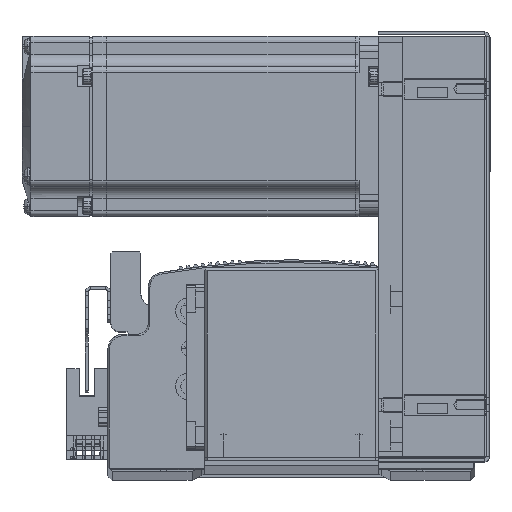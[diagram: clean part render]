
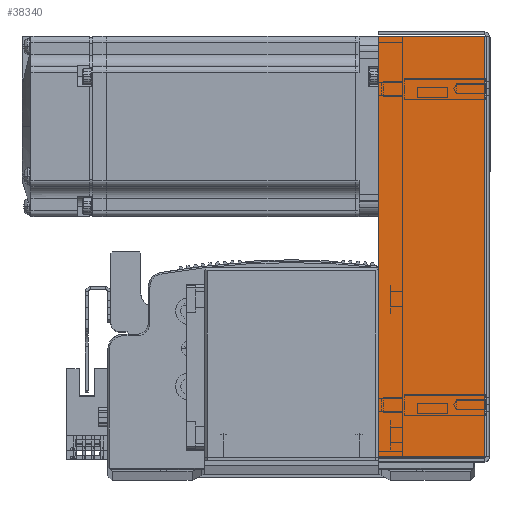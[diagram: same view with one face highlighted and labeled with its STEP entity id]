
A CAD part, top view. The second image highlights one B-rep face of the part: STEP entity #38340.
In plain terms, the highlighted planar face has unit normal (0, 0, 1) as drawn and (0, 0, -1) by its records, which use the part's own axes.
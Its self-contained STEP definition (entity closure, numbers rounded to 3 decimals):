
#11249 = VERTEX_POINT ( 'NONE', #91335 ) ;
#11259 = VERTEX_POINT ( 'NONE', #91359 ) ;
#11279 = VERTEX_POINT ( 'NONE', #91340 ) ;
#11285 = VERTEX_POINT ( 'NONE', #91481 ) ;
#16118 = EDGE_CURVE ( 'NONE', #11285, #11249, #35618, .T. ) ;
#16152 = EDGE_CURVE ( 'NONE', #11259, #11279, #35671, .T. ) ;
#16213 = EDGE_CURVE ( 'NONE', #11249, #11279, #35960, .T. ) ;
#16214 = EDGE_CURVE ( 'NONE', #11285, #11259, #35912, .T. ) ;
#32411 = FACE_OUTER_BOUND ( 'NONE', #68330, .T. ) ;
#35618 = LINE ( 'NONE', #72143, #35628 ) ;
#35628 = VECTOR ( 'NONE', #72133, 1000. ) ;
#35671 = LINE ( 'NONE', #72223, #35694 ) ;
#35694 = VECTOR ( 'NONE', #72258, 1000. ) ;
#35912 = LINE ( 'NONE', #72489, #35947 ) ;
#35931 = VECTOR ( 'NONE', #72461, 1000. ) ;
#35947 = VECTOR ( 'NONE', #72451, 1000. ) ;
#35960 = LINE ( 'NONE', #72477, #35931 ) ;
#38340 = ADVANCED_FACE ( 'NONE', ( #32411 ), #52308, .F. ) ;
#52293 = CARTESIAN_POINT ( 'NONE',  ( 0., 0., -33.5 ) ) ;
#52308 = PLANE ( 'NONE',  #54948 ) ;
#52316 = DIRECTION ( 'NONE',  ( 0., 0., 1. ) ) ;
#52318 = DIRECTION ( 'NONE',  ( 0., -1., 0. ) ) ;
#54948 = AXIS2_PLACEMENT_3D ( 'NONE', #52293, #52316, #52318 ) ;
#60375 = ORIENTED_EDGE ( 'NONE', *, *, #16152, .F. ) ;
#60385 = ORIENTED_EDGE ( 'NONE', *, *, #16214, .F. ) ;
#60403 = ORIENTED_EDGE ( 'NONE', *, *, #16213, .T. ) ;
#60413 = ORIENTED_EDGE ( 'NONE', *, *, #16118, .T. ) ;
#68330 = EDGE_LOOP ( 'NONE', ( #60385, #60413, #60403, #60375 ) ) ;
#72133 = DIRECTION ( 'NONE',  ( 0., 1., 0. ) ) ;
#72143 = CARTESIAN_POINT ( 'NONE',  ( -69.793, 0., -33.5 ) ) ;
#72223 = CARTESIAN_POINT ( 'NONE',  ( 69.793, 0., -33.5 ) ) ;
#72258 = DIRECTION ( 'NONE',  ( 0., 1., 0. ) ) ;
#72451 = DIRECTION ( 'NONE',  ( 1., 0., 0. ) ) ;
#72461 = DIRECTION ( 'NONE',  ( 1., 0., 0. ) ) ;
#72477 = CARTESIAN_POINT ( 'NONE',  ( 0., 36., -33.5 ) ) ;
#72489 = CARTESIAN_POINT ( 'NONE',  ( 71.5, 0.737, -33.5 ) ) ;
#91335 = CARTESIAN_POINT ( 'NONE',  ( -69.793, 36., -33.5 ) ) ;
#91340 = CARTESIAN_POINT ( 'NONE',  ( 69.793, 36., -33.5 ) ) ;
#91359 = CARTESIAN_POINT ( 'NONE',  ( 69.793, 0.737, -33.5 ) ) ;
#91481 = CARTESIAN_POINT ( 'NONE',  ( -69.793, 0.737, -33.5 ) ) ;
